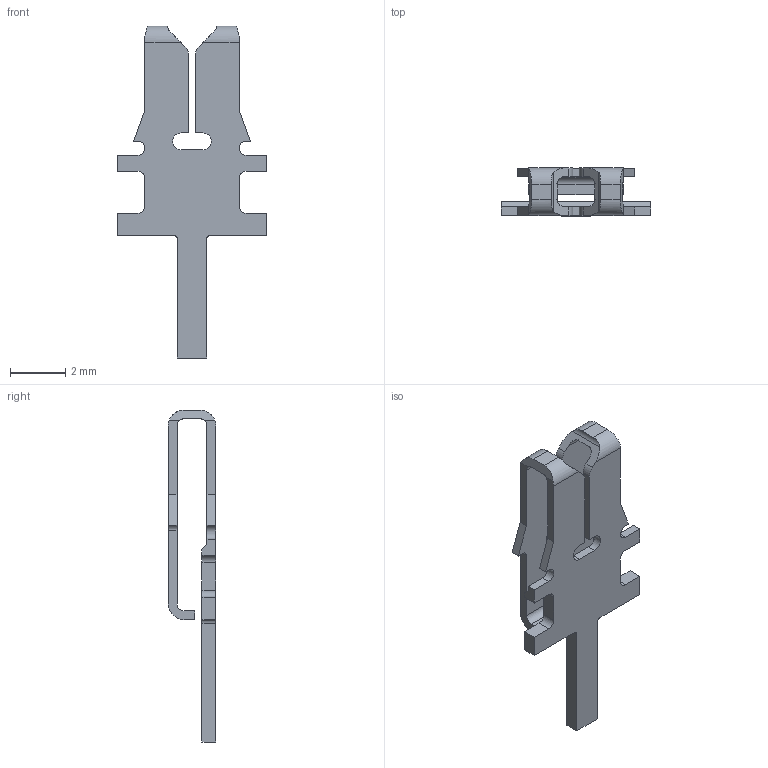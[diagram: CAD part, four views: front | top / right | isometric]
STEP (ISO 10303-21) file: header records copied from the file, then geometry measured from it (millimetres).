
FILE_DESCRIPTION((''),'2;1');
FILE_NAME('C-1217302-1','2015-06-13T',('workeradm'),('Tyco Electronics Ltd.'),'PRO/ENGINEER BY PARAMETRIC TECHNOLOGY CORPORATION, 2014090','PRO/ENGINEER BY PARAMETRIC TECHNOLOGY CORPORATION, 2014090','');
FILE_SCHEMA(('AUTOMOTIVE_DESIGN { 1 0 10303 214 1 1 1 1 }'));
Length unit declared in the file: millimetre
Products named in the file (1): C-1217302-1
Bounding box: 5.43 x 1.73 x 12.06 mm (x, y, z)
Volume: 21.7 mm3; surface area: 148.6 mm2
Topology: 1 solids, 1 shells, 90 faces, 270 edges, 180 vertices
Faces by surface type: plane 60, cylinder 30
Entity records: 3268 total; most frequent: CARTESIAN_POINT 644, ORIENTED_EDGE 540, DIRECTION 482, EDGE_CURVE 270, VECTOR 198, LINE 198, VERTEX_POINT 180, AXIS2_PLACEMENT_3D 142
